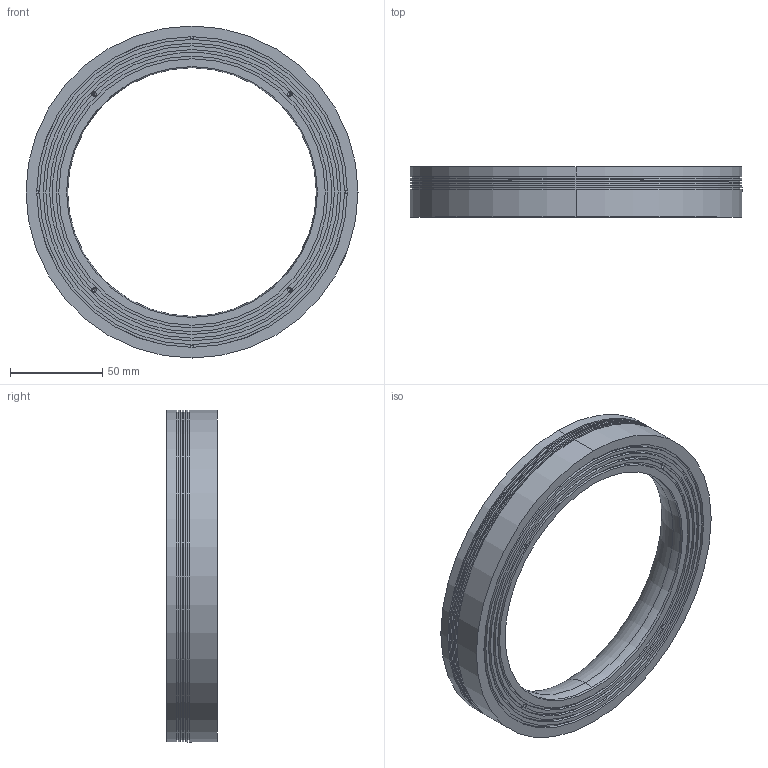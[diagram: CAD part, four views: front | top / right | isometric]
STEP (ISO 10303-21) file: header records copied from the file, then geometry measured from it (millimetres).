
FILE_DESCRIPTION (( 'STEP AP203' ), '1' );
FILE_NAME ('LRD-R2-180-3D.STEP', '2021-08-27T09:08:13', ( '' ), ( '' ), 'SwSTEP 2.0', 'SolidWorks 2018', '' );
FILE_SCHEMA (( 'CONFIG_CONTROL_DESIGN' ));
Length unit declared in the file: millimetre
Products named in the file (1): LRD-R2-180-3D
Bounding box: 180 x 27.27 x 180 mm (x, y, z)
Volume: 256209.6 mm3; surface area: 56283.5 mm2
Topology: 1 solids, 1 shells, 97 faces, 232 edges, 146 vertices
Faces by surface type: cylinder 57, plane 23, cone 13, torus 4
Entity records: 2987 total; most frequent: CARTESIAN_POINT 574, DIRECTION 550, ORIENTED_EDGE 448, AXIS2_PLACEMENT_3D 236, EDGE_CURVE 224, VERTEX_POINT 146, CIRCLE 138, EDGE_LOOP 116
